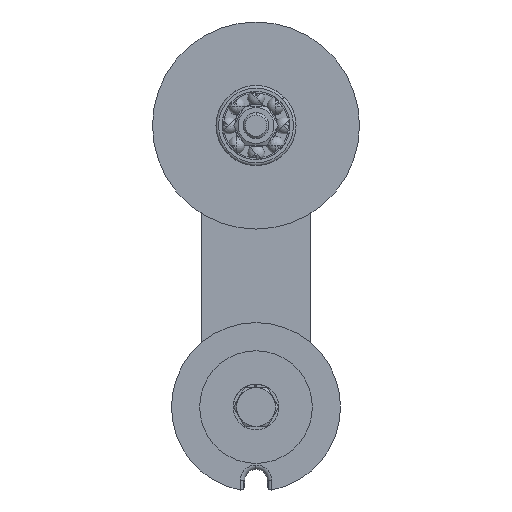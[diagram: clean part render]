
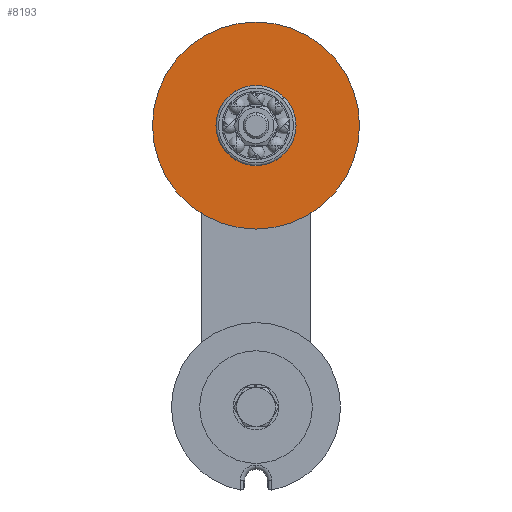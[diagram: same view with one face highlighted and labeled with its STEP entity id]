
A CAD part, front view. The second image highlights one B-rep face of the part: STEP entity #8193.
In plain terms, the highlighted planar face has unit normal (0, -1, 0) as drawn and (1, 0, 0) by its records, which use the part's own axes.
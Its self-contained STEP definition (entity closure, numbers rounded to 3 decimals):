
#7785=CARTESIAN_POINT('',(31.552,0.0,39.86));
#7786=VERTEX_POINT('',#7785);
#7793=CARTESIAN_POINT('',(31.552,0.,-55.74));
#7794=VERTEX_POINT('',#7793);
#7795=CARTESIAN_POINT('',(31.552,0.0,-7.94));
#7796=DIRECTION('',(-1.0,0.0,0.0));
#7797=DIRECTION('',(0.0,0.0,1.0));
#7798=AXIS2_PLACEMENT_3D('',#7795,#7796,#7797);
#7799=CIRCLE('',#7798,47.8);
#7800=EDGE_CURVE('',#7786,#7794,#7799,.T.);
#7904=CARTESIAN_POINT('',(31.552,0.,10.56));
#7905=VERTEX_POINT('',#7904);
#7921=CARTESIAN_POINT('',(31.552,0.,-26.44));
#7922=VERTEX_POINT('',#7921);
#7929=CARTESIAN_POINT('',(31.552,0.0,-7.94));
#7930=DIRECTION('',(-1.0,0.0,0.0));
#7931=DIRECTION('',(0.0,0.0,1.0));
#7932=AXIS2_PLACEMENT_3D('',#7929,#7930,#7931);
#7933=CIRCLE('',#7932,18.5);
#7934=EDGE_CURVE('',#7905,#7922,#7933,.T.);
#8031=CARTESIAN_POINT('',(31.552,0.0,-7.94));
#8032=DIRECTION('',(-1.0,0.0,0.0));
#8033=DIRECTION('',(0.0,0.0,1.0));
#8034=AXIS2_PLACEMENT_3D('',#8031,#8032,#8033);
#8035=CIRCLE('',#8034,18.5);
#8036=EDGE_CURVE('',#7922,#7905,#8035,.T.);
#8140=CARTESIAN_POINT('',(31.552,0.0,-7.94));
#8141=DIRECTION('',(-1.0,0.0,0.0));
#8142=DIRECTION('',(0.0,0.0,1.0));
#8143=AXIS2_PLACEMENT_3D('',#8140,#8141,#8142);
#8144=CIRCLE('',#8143,47.8);
#8145=EDGE_CURVE('',#7794,#7786,#8144,.T.);
#8180=CARTESIAN_POINT('',(31.552,0.0,15.96));
#8181=DIRECTION('',(1.0,0.0,0.0));
#8182=DIRECTION('',(0.0,0.0,-1.0));
#8183=AXIS2_PLACEMENT_3D('',#8180,#8181,#8182);
#8184=PLANE('',#8183);
#8185=ORIENTED_EDGE('',*,*,#7800,.F.);
#8186=ORIENTED_EDGE('',*,*,#8145,.F.);
#8187=EDGE_LOOP('',(#8185,#8186));
#8188=FACE_OUTER_BOUND('',#8187,.T.);
#8189=ORIENTED_EDGE('',*,*,#8036,.T.);
#8190=ORIENTED_EDGE('',*,*,#7934,.T.);
#8191=EDGE_LOOP('',(#8189,#8190));
#8192=FACE_BOUND('',#8191,.T.);
#8193=ADVANCED_FACE('',(#8188,#8192),#8184,.T.);
